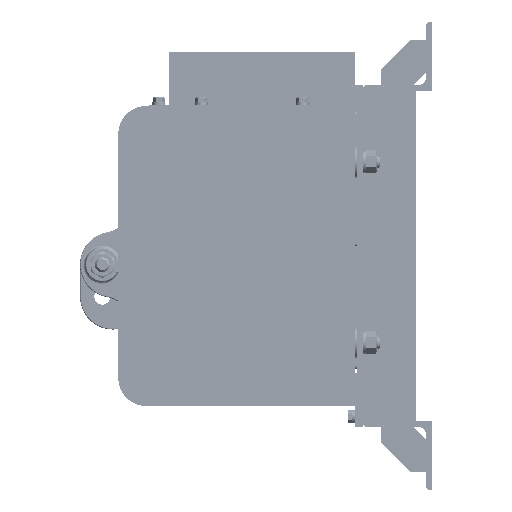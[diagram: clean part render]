
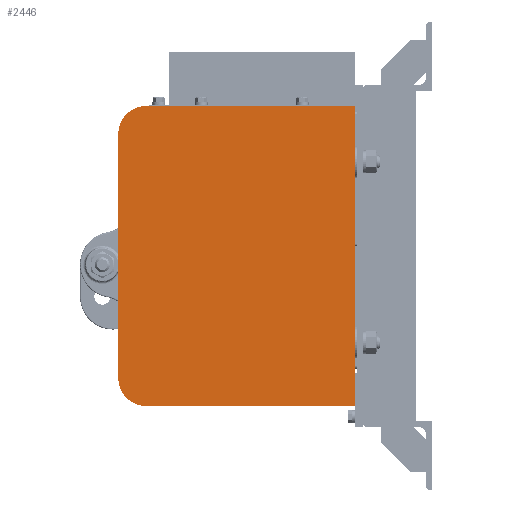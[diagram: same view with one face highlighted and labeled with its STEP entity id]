
A CAD part, left-side view. The second image highlights one B-rep face of the part: STEP entity #2446.
In plain terms, the highlighted planar face has unit normal (-1, 0, 0).
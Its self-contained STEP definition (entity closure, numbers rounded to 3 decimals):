
#2446=ADVANCED_FACE('',(#28147),#28146,.F.);
#28146=PLANE('',#84542);
#28147=FACE_OUTER_BOUND('',#84543,.T.);
#84539=CARTESIAN_POINT('',(-1234.507,-1037.059,-1112.508));
#84540=DIRECTION('',(1.,0.,0.));
#84541=DIRECTION('',(0.,0.,-1.));
#84542=AXIS2_PLACEMENT_3D('',#84539,#84540,#84541);
#84543=EDGE_LOOP('',(#109210,#109211,#109212,#109213,#109214,#109215));
#109210=ORIENTED_EDGE('',*,*,#125470,.F.);
#109211=ORIENTED_EDGE('',*,*,#125492,.F.);
#109212=ORIENTED_EDGE('',*,*,#125489,.F.);
#109213=ORIENTED_EDGE('',*,*,#125487,.F.);
#109214=ORIENTED_EDGE('',*,*,#120489,.F.);
#109215=ORIENTED_EDGE('',*,*,#125473,.F.);
#120489=EDGE_CURVE('',#147425,#147432,#147433,.T.);
#125470=EDGE_CURVE('',#180707,#180714,#180715,.T.);
#125473=EDGE_CURVE('',#180714,#147425,#180733,.T.);
#125487=EDGE_CURVE('',#147432,#180810,#180824,.T.);
#125489=EDGE_CURVE('',#180810,#180837,#180838,.T.);
#125492=EDGE_CURVE('',#180837,#180707,#180856,.T.);
#147425=VERTEX_POINT('',#213789);
#147432=VERTEX_POINT('',#213793);
#147433=LINE('',#213794,#213795);
#180707=VERTEX_POINT('',#244353);
#180714=VERTEX_POINT('',#244357);
#180715=CIRCLE('',#244361,26.);
#180733=LINE('',#244368,#244369);
#180810=VERTEX_POINT('',#244411);
#180824=LINE('',#244419,#244420);
#180837=VERTEX_POINT('',#244427);
#180838=CIRCLE('',#244431,26.);
#180856=LINE('',#244438,#244439);
#213789=CARTESIAN_POINT('',(-1234.507,-1027.059,-1122.508));
#213793=CARTESIAN_POINT('',(-1234.507,-1027.059,-1404.508));
#213794=CARTESIAN_POINT('',(-1234.507,-1027.059,-1122.508));
#213795=VECTOR('',#213796,282.);
#213796=DIRECTION('',(0.,0.,-1.));
#244353=CARTESIAN_POINT('',(-1234.507,-804.059,-1148.508));
#244357=CARTESIAN_POINT('',(-1234.507,-830.059,-1122.508));
#244358=CARTESIAN_POINT('',(-1234.507,-830.059,-1148.508));
#244359=DIRECTION('',(1.,0.,0.));
#244360=DIRECTION('',(0.,-1.,0.));
#244361=AXIS2_PLACEMENT_3D('',#244358,#244359,#244360);
#244368=CARTESIAN_POINT('',(-1234.507,-830.059,-1122.508));
#244369=VECTOR('',#244370,197.);
#244370=DIRECTION('',(0.,-1.,0.));
#244411=CARTESIAN_POINT('',(-1234.507,-830.059,-1404.508));
#244419=CARTESIAN_POINT('',(-1234.507,-1027.059,-1404.508));
#244420=VECTOR('',#244421,197.);
#244421=DIRECTION('',(0.,1.,0.));
#244427=CARTESIAN_POINT('',(-1234.507,-804.059,-1378.508));
#244428=CARTESIAN_POINT('',(-1234.507,-830.059,-1378.508));
#244429=DIRECTION('',(1.,0.,0.));
#244430=DIRECTION('',(0.,0.,1.));
#244431=AXIS2_PLACEMENT_3D('',#244428,#244429,#244430);
#244438=CARTESIAN_POINT('',(-1234.507,-804.059,-1378.508));
#244439=VECTOR('',#244440,230.);
#244440=DIRECTION('',(0.,0.,1.));
